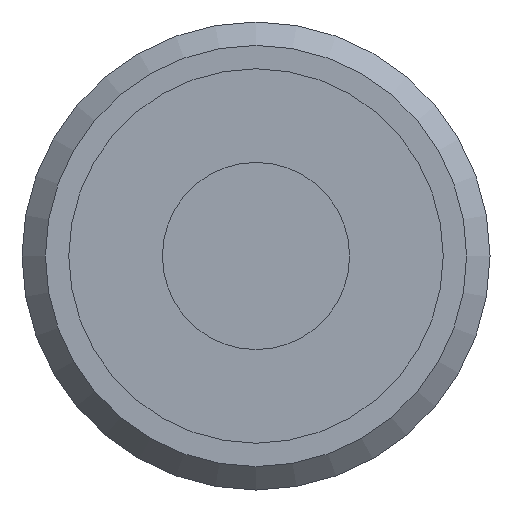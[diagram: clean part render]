
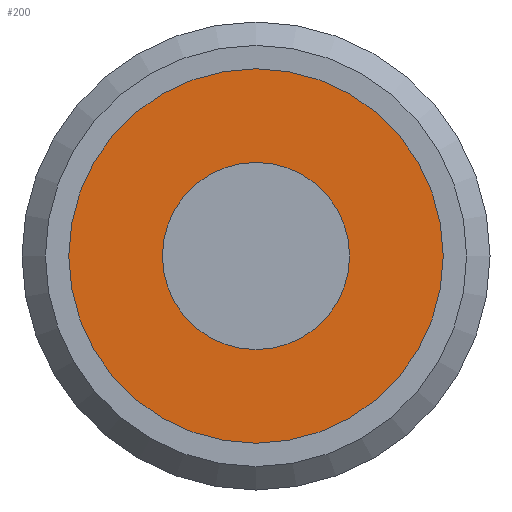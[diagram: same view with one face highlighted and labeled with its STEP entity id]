
A CAD part, front view. The second image highlights one B-rep face of the part: STEP entity #200.
In plain terms, the highlighted planar face has unit normal (0, -1, 0).
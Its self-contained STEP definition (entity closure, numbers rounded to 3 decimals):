
#47=FACE_BOUND('',#72,.T.);
#54=FACE_OUTER_BOUND('',#71,.T.);
#71=EDGE_LOOP('',(#152));
#72=EDGE_LOOP('',(#153));
#90=CIRCLE('',#233,8.);
#91=CIRCLE('',#235,4.);
#105=VERTEX_POINT('',#340);
#106=VERTEX_POINT('',#344);
#121=EDGE_CURVE('',#105,#105,#90,.T.);
#123=EDGE_CURVE('',#106,#106,#91,.T.);
#152=ORIENTED_EDGE('',*,*,#121,.T.);
#153=ORIENTED_EDGE('',*,*,#123,.T.);
#191=PLANE('',#236);
#200=ADVANCED_FACE('',(#54,#47),#191,.T.);
#233=AXIS2_PLACEMENT_3D('',#342,#271,#272);
#235=AXIS2_PLACEMENT_3D('',#346,#276,#277);
#236=AXIS2_PLACEMENT_3D('',#347,#278,#279);
#271=DIRECTION('center_axis',(0.,-1.,0.));
#272=DIRECTION('ref_axis',(-1.,0.,0.));
#276=DIRECTION('center_axis',(0.,1.,0.));
#277=DIRECTION('ref_axis',(-1.,0.,0.));
#278=DIRECTION('center_axis',(0.,-1.,0.));
#279=DIRECTION('ref_axis',(0.,0.,-1.));
#340=CARTESIAN_POINT('',(8.,0.,0.));
#342=CARTESIAN_POINT('Origin',(0.,0.,0.));
#344=CARTESIAN_POINT('',(4.,0.,0.));
#346=CARTESIAN_POINT('Origin',(0.,0.,0.));
#347=CARTESIAN_POINT('Origin',(0.,0.,0.));
